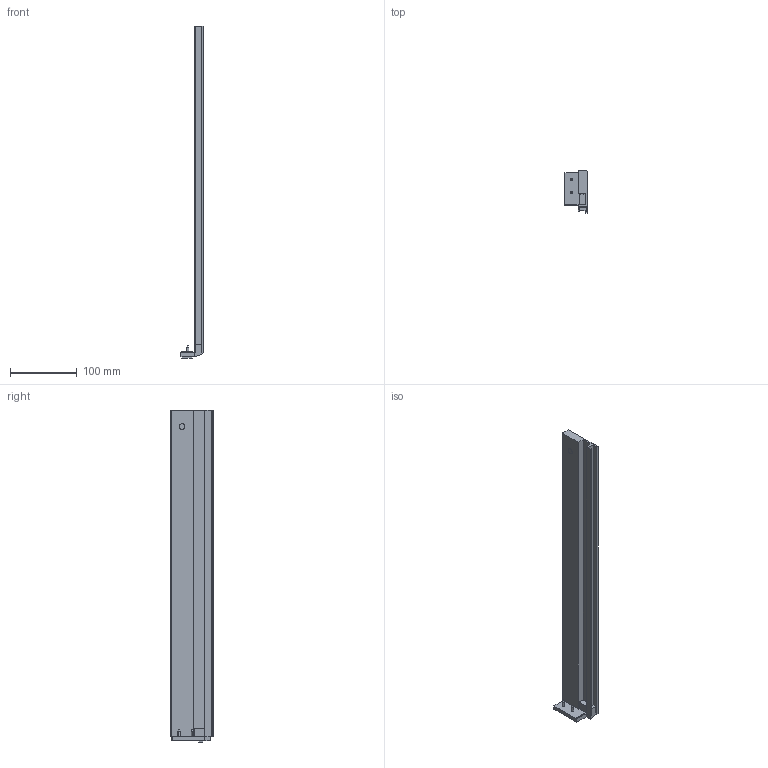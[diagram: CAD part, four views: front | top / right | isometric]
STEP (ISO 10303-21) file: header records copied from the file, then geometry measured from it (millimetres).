
FILE_DESCRIPTION (( 'STEP AP214' ), '1' );
FILE_NAME ('Vionaro_Alu-Zarge_H63_V1_NL500_RE.STEP', '2014-08-22T09:40:04', ( '' ), ( '' ), 'SwSTEP 2.0', 'SolidWorks 2013', '' );
FILE_SCHEMA (( 'AUTOMOTIVE_DESIGN' ));
Length unit declared in the file: millimetre
Products named in the file (1): Vionaro_Alu-Zarge_H63_V1_NL500_RE
Bounding box: 33 x 63 x 497.9 mm (x, y, z)
Volume: 280403.1 mm3; surface area: 97264.2 mm2
Topology: 1 solids, 1 shells, 71 faces, 185 edges, 121 vertices
Faces by surface type: plane 59, cylinder 8, cone 4
Entity records: 2178 total; most frequent: CARTESIAN_POINT 378, ORIENTED_EDGE 370, DIRECTION 350, EDGE_CURVE 185, LINE 164, VECTOR 164, VERTEX_POINT 121, AXIS2_PLACEMENT_3D 93
